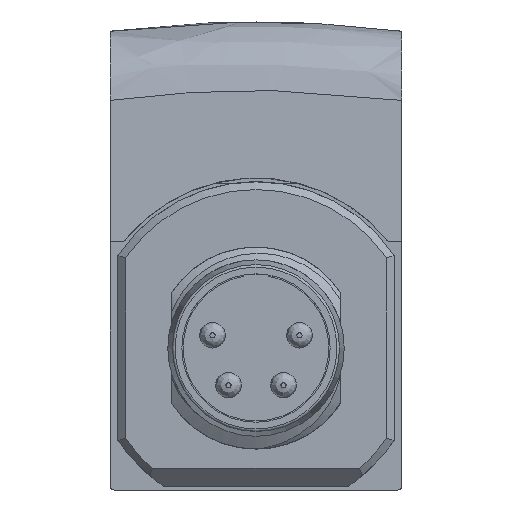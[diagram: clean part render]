
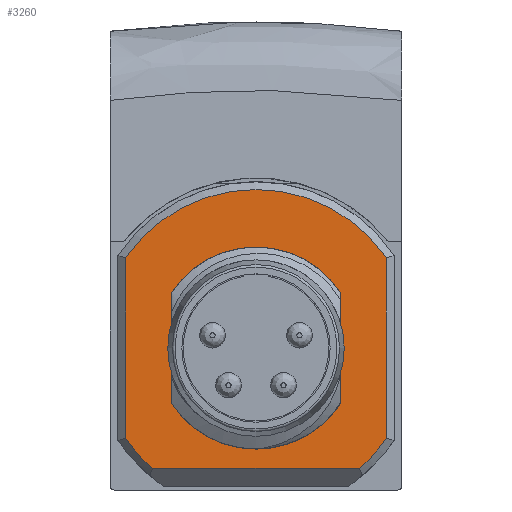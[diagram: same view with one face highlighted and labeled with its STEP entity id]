
A CAD part, front view. The second image highlights one B-rep face of the part: STEP entity #3260.
In plain terms, the highlighted planar face has unit normal (0, -1, 0).
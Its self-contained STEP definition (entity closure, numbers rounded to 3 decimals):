
#2782=CIRCLE('',#11261,3.39);
#2784=CIRCLE('',#11264,3.39);
#2795=CIRCLE('',#11297,6.2);
#2796=CIRCLE('',#11298,6.2);
#2797=CIRCLE('',#11299,6.2);
#3260=ADVANCED_FACE('4-0-129',(#3660,#3661),#3538,.T.);
#3538=PLANE('',#11300);
#3660=FACE_BOUND('',#4118,.T.);
#3661=FACE_BOUND('',#4119,.T.);
#4118=EDGE_LOOP('',(#6407,#6408,#6409,#6410,#6411,#6412));
#4119=EDGE_LOOP('',(#6413,#6414,#6415,#6416));
#6407=ORIENTED_EDGE('',*,*,#8985,.T.);
#6408=ORIENTED_EDGE('',*,*,#8986,.T.);
#6409=ORIENTED_EDGE('',*,*,#8987,.T.);
#6410=ORIENTED_EDGE('',*,*,#8988,.T.);
#6411=ORIENTED_EDGE('',*,*,#8989,.T.);
#6412=ORIENTED_EDGE('',*,*,#8990,.T.);
#6413=ORIENTED_EDGE('',*,*,#8937,.F.);
#6414=ORIENTED_EDGE('',*,*,#8903,.F.);
#6415=ORIENTED_EDGE('',*,*,#8956,.T.);
#6416=ORIENTED_EDGE('',*,*,#8899,.F.);
#7681=VERTEX_POINT('',#17426);
#7682=VERTEX_POINT('',#17428);
#7684=VERTEX_POINT('',#17434);
#7686=VERTEX_POINT('',#17437);
#7735=VERTEX_POINT('',#20156);
#7736=VERTEX_POINT('',#20157);
#7737=VERTEX_POINT('',#20159);
#7738=VERTEX_POINT('',#20161);
#7739=VERTEX_POINT('',#20163);
#7740=VERTEX_POINT('',#20165);
#8899=EDGE_CURVE('',#7681,#7682,#2782,.T.);
#8903=EDGE_CURVE('',#7684,#7686,#2784,.T.);
#8937=EDGE_CURVE('',#7686,#7681,#9822,.T.);
#8956=EDGE_CURVE('',#7684,#7682,#9829,.T.);
#8985=EDGE_CURVE('',#7735,#7736,#9835,.T.);
#8986=EDGE_CURVE('',#7736,#7737,#2795,.T.);
#8987=EDGE_CURVE('',#7737,#7738,#9836,.T.);
#8988=EDGE_CURVE('',#7738,#7739,#2796,.T.);
#8989=EDGE_CURVE('',#7739,#7740,#9837,.T.);
#8990=EDGE_CURVE('',#7740,#7735,#2797,.T.);
#9822=LINE('',#17688,#10543);
#9829=LINE('',#17756,#10550);
#9835=LINE('',#20155,#10556);
#9836=LINE('',#20160,#10557);
#9837=LINE('',#20164,#10558);
#10543=VECTOR('',#13320,1.);
#10550=VECTOR('',#13329,1.);
#10556=VECTOR('',#13349,1.);
#10557=VECTOR('',#13352,1.);
#10558=VECTOR('',#13355,1.);
#11261=AXIS2_PLACEMENT_3D('',#17427,#13256,#13257);
#11264=AXIS2_PLACEMENT_3D('',#17436,#13264,#13265);
#11297=AXIS2_PLACEMENT_3D('',#20158,#13350,#13351);
#11298=AXIS2_PLACEMENT_3D('',#20162,#13353,#13354);
#11299=AXIS2_PLACEMENT_3D('',#20166,#13356,#13357);
#11300=AXIS2_PLACEMENT_3D('',#20167,#13358,#13359);
#13256=DIRECTION('',(0.,-1.,0.));
#13257=DIRECTION('',(0.,0.,1.));
#13264=DIRECTION('',(0.,-1.,0.));
#13265=DIRECTION('',(0.,0.,1.));
#13320=DIRECTION('',(0.,0.,-1.));
#13329=DIRECTION('',(0.,0.,-1.));
#13349=DIRECTION('',(0.,0.,-1.));
#13350=DIRECTION('',(0.,-1.,0.));
#13351=DIRECTION('',(-0.823,0.,-0.569));
#13352=DIRECTION('',(1.,0.,0.));
#13353=DIRECTION('',(0.,-1.,0.));
#13354=DIRECTION('',(0.652,0.,-0.758));
#13355=DIRECTION('',(0.,0.,1.));
#13356=DIRECTION('',(0.,-1.,0.));
#13357=DIRECTION('',(0.823,0.,0.569));
#13358=DIRECTION('',(0.,-1.,0.));
#13359=DIRECTION('',(-1.,0.,0.));
#17426=CARTESIAN_POINT('',(-3.3,-1.6,-13.626));
#17427=CARTESIAN_POINT('',(0.,-1.6,-12.85));
#17428=CARTESIAN_POINT('',(3.3,-1.6,-13.626));
#17434=CARTESIAN_POINT('',(3.3,-1.6,-12.074));
#17436=CARTESIAN_POINT('',(0.,-1.6,-12.85));
#17437=CARTESIAN_POINT('',(-3.3,-1.6,-12.074));
#17688=CARTESIAN_POINT('',(-3.3,-1.6,-5.35));
#17756=CARTESIAN_POINT('',(3.3,-1.6,-5.35));
#20155=CARTESIAN_POINT('',(-5.1,-1.6,-9.324));
#20156=CARTESIAN_POINT('',(-5.1,-1.6,-9.324));
#20157=CARTESIAN_POINT('',(-5.1,-1.6,-16.376));
#20158=CARTESIAN_POINT('',(0.,-1.6,-12.85));
#20159=CARTESIAN_POINT('',(-4.044,-1.6,-17.55));
#20160=CARTESIAN_POINT('',(-4.044,-1.6,-17.55));
#20161=CARTESIAN_POINT('',(4.044,-1.6,-17.55));
#20162=CARTESIAN_POINT('',(0.,-1.6,-12.85));
#20163=CARTESIAN_POINT('',(5.1,-1.6,-16.376));
#20164=CARTESIAN_POINT('',(5.1,-1.6,-16.376));
#20165=CARTESIAN_POINT('',(5.1,-1.6,-9.324));
#20166=CARTESIAN_POINT('',(0.,-1.6,-12.85));
#20167=CARTESIAN_POINT('',(-7.15,-1.6,-17.795));
